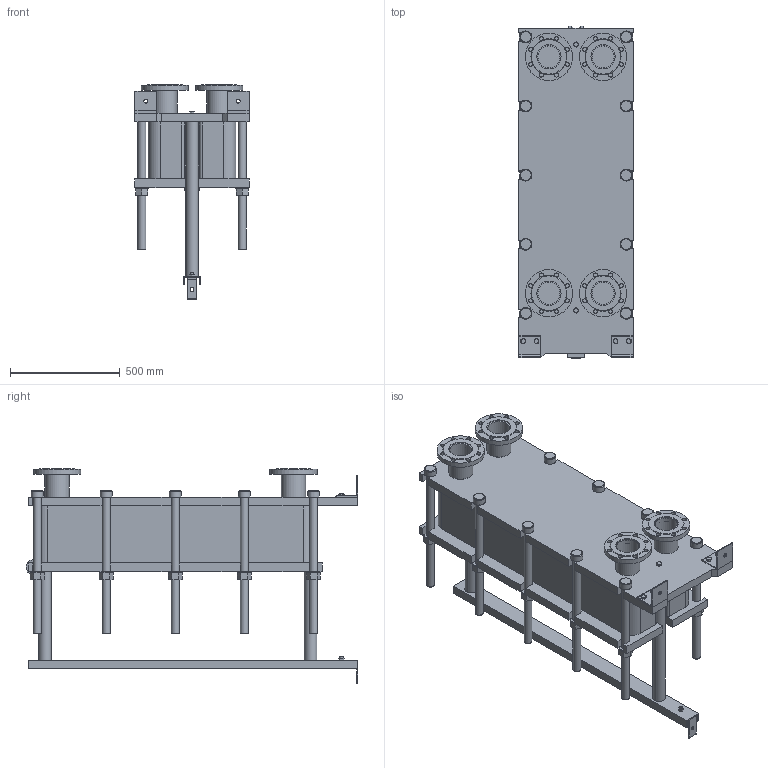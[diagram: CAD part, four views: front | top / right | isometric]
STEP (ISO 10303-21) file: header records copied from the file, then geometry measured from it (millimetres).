
FILE_DESCRIPTION(/* description */ (''),/* implementation_level */ '2;1');
FILE_NAME(/* name */ 'C:\Users\zhuro\Desktop\ENCO\TO\ЭН-04\ЭН-0,5-04-75-1.stp',/* time_stamp */ '2022-06-06T10:51:13+03:00',/* author */ ('zhuro'),/* organization */ (''),/* preprocessor_version */ 'ST-DEVELOPER v18.1',/* originating_system */ 'Autodesk Inventor 2022',/* authorisation */ '');
FILE_SCHEMA (('AUTOMOTIVE_DESIGN { 1 0 10303 214 3 1 1 }'));
Length unit declared in the file: millimetre
Products named in the file (1): ЭН-0,5-04-75-1
Bounding box: 520 x 1510 x 977.5 mm (x, y, z)
Volume: 199171941.6 mm3; surface area: 7805509.6 mm2
Topology: 45 solids, 45 shells, 668 faces, 1611 edges, 1048 vertices
Faces by surface type: plane 457, cylinder 166, cone 39, torus 6
Full cylindrical faces by diameter (mm): 8 x4, 10 x2, 16 x8, 18 x35, 36 x25, 40 x2, 42 x1, 45 x4, 54 x10, 57 x2, 60 x10, 68 x2, 100 x4, 110 x8, 215 x4
Entity records: 23607 total; most frequent: CARTESIAN_POINT 7348, DIRECTION 3371, ORIENTED_EDGE 3142, EDGE_CURVE 1571, AXIS2_PLACEMENT_3D 1199, VERTEX_POINT 1044, LINE 973, VECTOR 973
